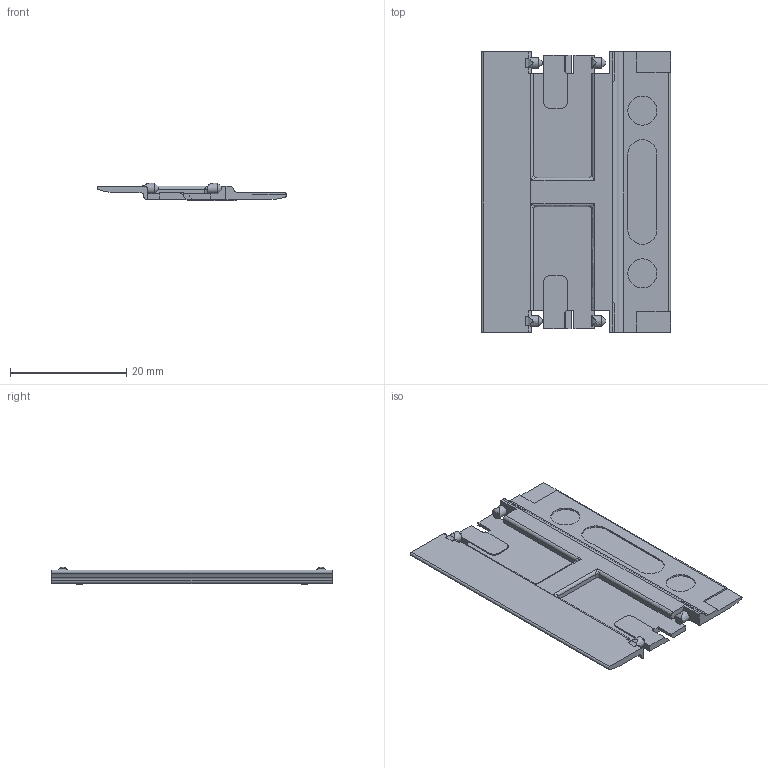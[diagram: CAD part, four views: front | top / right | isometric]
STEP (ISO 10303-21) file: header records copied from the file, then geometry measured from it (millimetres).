
FILE_DESCRIPTION((''),'2;1');
FILE_NAME('C:\Uebbing\PARAMETERKETTEN\KOLIBRI\Kol_22_060_5\Kol_22_060_5_Klappdeckel.stp','2011-11-02T11:23:58',('Uebbing'),(''),'Autodesk Inventor 10','Autodesk Inventor 10','');
FILE_SCHEMA(('AUTOMOTIVE_DESIGN { 1 0 10303 214 1 1 1 1 }'));
Length unit declared in the file: millimetre
Products named in the file (1): Kol_22_060_5_Klappdeckel
Bounding box: 32.53 x 48.2 x 3 mm (x, y, z)
Volume: 1933.6 mm3; surface area: 3460 mm2
Topology: 3 solids, 3 shells, 163 faces, 462 edges, 308 vertices
Faces by surface type: bspline 74, plane 50, cylinder 37, cone 2
Full cylindrical faces by diameter (mm): 1.8 x2, 5 x1
Entity records: 6130 total; most frequent: CARTESIAN_POINT 2106, ORIENTED_EDGE 900, DIRECTION 728, EDGE_CURVE 450, VERTEX_POINT 304, VECTOR 296, LINE 296, AXIS2_PLACEMENT_3D 216
